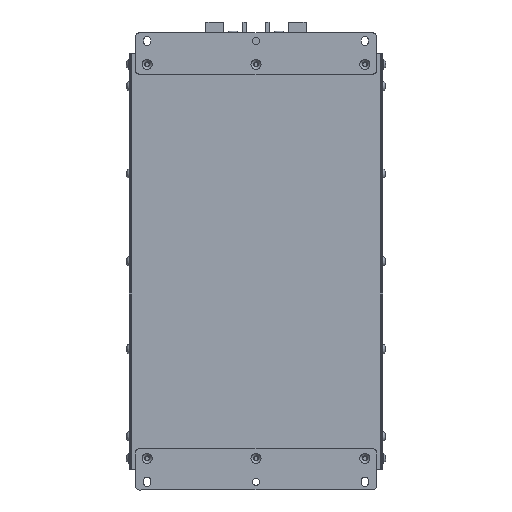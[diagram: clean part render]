
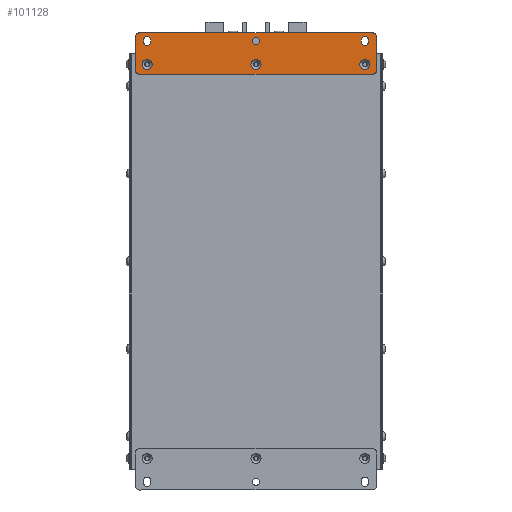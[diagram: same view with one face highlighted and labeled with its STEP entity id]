
A CAD part, front view. The second image highlights one B-rep face of the part: STEP entity #101128.
In plain terms, the highlighted planar face has unit normal (0, -1, 0).
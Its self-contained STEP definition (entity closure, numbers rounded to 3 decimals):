
#11387=FACE_BOUND('',#20263,.T.);
#11388=FACE_BOUND('',#20264,.T.);
#11389=FACE_BOUND('',#20265,.T.);
#11390=FACE_BOUND('',#20266,.T.);
#11391=FACE_BOUND('',#20267,.T.);
#11392=FACE_BOUND('',#20268,.T.);
#12042=PLANE('',#106934);
#14770=FACE_OUTER_BOUND('',#20262,.T.);
#20262=EDGE_LOOP('',(#71159,#71160,#71161,#71162,#71163,#71164,#71165,#71166));
#20263=EDGE_LOOP('',(#71167));
#20264=EDGE_LOOP('',(#71168,#71169,#71170,#71171));
#20265=EDGE_LOOP('',(#71172,#71173,#71174,#71175));
#20266=EDGE_LOOP('',(#71176));
#20267=EDGE_LOOP('',(#71177));
#20268=EDGE_LOOP('',(#71178));
#26409=LINE('',#136958,#34986);
#26410=LINE('',#136962,#34987);
#26411=LINE('',#136966,#34988);
#26412=LINE('',#136970,#34989);
#26413=LINE('',#136976,#34990);
#26414=LINE('',#136980,#34991);
#26415=LINE('',#136986,#34992);
#26416=LINE('',#136989,#34993);
#34986=VECTOR('',#114089,10.);
#34987=VECTOR('',#114092,10.);
#34988=VECTOR('',#114095,10.);
#34989=VECTOR('',#114098,10.);
#34990=VECTOR('',#114103,10.);
#34991=VECTOR('',#114106,10.);
#34992=VECTOR('',#114111,10.);
#34993=VECTOR('',#114114,10.);
#43562=CIRCLE('',#106932,4.6);
#43564=CIRCLE('',#106935,4.);
#43565=CIRCLE('',#106936,4.);
#43566=CIRCLE('',#106937,4.);
#43567=CIRCLE('',#106938,4.);
#43568=CIRCLE('',#106939,4.6);
#43569=CIRCLE('',#106940,3.3);
#43570=CIRCLE('',#106941,3.3);
#43571=CIRCLE('',#106942,3.3);
#43572=CIRCLE('',#106943,3.3);
#43573=CIRCLE('',#106944,3.3);
#43574=CIRCLE('',#106945,4.6);
#46307=VERTEX_POINT('',#136950);
#46309=VERTEX_POINT('',#136956);
#46310=VERTEX_POINT('',#136957);
#46311=VERTEX_POINT('',#136959);
#46312=VERTEX_POINT('',#136961);
#46313=VERTEX_POINT('',#136963);
#46314=VERTEX_POINT('',#136965);
#46315=VERTEX_POINT('',#136967);
#46316=VERTEX_POINT('',#136969);
#46317=VERTEX_POINT('',#136972);
#46318=VERTEX_POINT('',#136974);
#46319=VERTEX_POINT('',#136975);
#46320=VERTEX_POINT('',#136977);
#46321=VERTEX_POINT('',#136979);
#46322=VERTEX_POINT('',#136982);
#46323=VERTEX_POINT('',#136983);
#46324=VERTEX_POINT('',#136985);
#46325=VERTEX_POINT('',#136987);
#46326=VERTEX_POINT('',#136990);
#46327=VERTEX_POINT('',#136992);
#56182=EDGE_CURVE('',#46307,#46307,#43562,.T.);
#56185=EDGE_CURVE('',#46309,#46310,#26409,.T.);
#56186=EDGE_CURVE('',#46311,#46309,#43564,.T.);
#56187=EDGE_CURVE('',#46312,#46311,#26410,.T.);
#56188=EDGE_CURVE('',#46313,#46312,#43565,.T.);
#56189=EDGE_CURVE('',#46314,#46313,#26411,.T.);
#56190=EDGE_CURVE('',#46315,#46314,#43566,.T.);
#56191=EDGE_CURVE('',#46316,#46315,#26412,.T.);
#56192=EDGE_CURVE('',#46310,#46316,#43567,.T.);
#56193=EDGE_CURVE('',#46317,#46317,#43568,.T.);
#56194=EDGE_CURVE('',#46318,#46319,#26413,.T.);
#56195=EDGE_CURVE('',#46319,#46320,#43569,.T.);
#56196=EDGE_CURVE('',#46320,#46321,#26414,.T.);
#56197=EDGE_CURVE('',#46321,#46318,#43570,.T.);
#56198=EDGE_CURVE('',#46322,#46323,#43571,.T.);
#56199=EDGE_CURVE('',#46323,#46324,#26415,.T.);
#56200=EDGE_CURVE('',#46324,#46325,#43572,.T.);
#56201=EDGE_CURVE('',#46325,#46322,#26416,.T.);
#56202=EDGE_CURVE('',#46326,#46326,#43573,.T.);
#56203=EDGE_CURVE('',#46327,#46327,#43574,.T.);
#71159=ORIENTED_EDGE('',*,*,#56185,.F.);
#71160=ORIENTED_EDGE('',*,*,#56186,.F.);
#71161=ORIENTED_EDGE('',*,*,#56187,.F.);
#71162=ORIENTED_EDGE('',*,*,#56188,.F.);
#71163=ORIENTED_EDGE('',*,*,#56189,.F.);
#71164=ORIENTED_EDGE('',*,*,#56190,.F.);
#71165=ORIENTED_EDGE('',*,*,#56191,.F.);
#71166=ORIENTED_EDGE('',*,*,#56192,.F.);
#71167=ORIENTED_EDGE('',*,*,#56193,.F.);
#71168=ORIENTED_EDGE('',*,*,#56194,.T.);
#71169=ORIENTED_EDGE('',*,*,#56195,.T.);
#71170=ORIENTED_EDGE('',*,*,#56196,.T.);
#71171=ORIENTED_EDGE('',*,*,#56197,.T.);
#71172=ORIENTED_EDGE('',*,*,#56198,.T.);
#71173=ORIENTED_EDGE('',*,*,#56199,.T.);
#71174=ORIENTED_EDGE('',*,*,#56200,.T.);
#71175=ORIENTED_EDGE('',*,*,#56201,.T.);
#71176=ORIENTED_EDGE('',*,*,#56202,.T.);
#71177=ORIENTED_EDGE('',*,*,#56203,.F.);
#71178=ORIENTED_EDGE('',*,*,#56182,.F.);
#101128=ADVANCED_FACE('',(#14770,#11387,#11388,#11389,#11390,#11391,#11392),
#12042,.F.);
#106932=AXIS2_PLACEMENT_3D('',#136951,#114082,#114083);
#106934=AXIS2_PLACEMENT_3D('',#136955,#114087,#114088);
#106935=AXIS2_PLACEMENT_3D('',#136960,#114090,#114091);
#106936=AXIS2_PLACEMENT_3D('',#136964,#114093,#114094);
#106937=AXIS2_PLACEMENT_3D('',#136968,#114096,#114097);
#106938=AXIS2_PLACEMENT_3D('',#136971,#114099,#114100);
#106939=AXIS2_PLACEMENT_3D('',#136973,#114101,#114102);
#106940=AXIS2_PLACEMENT_3D('',#136978,#114104,#114105);
#106941=AXIS2_PLACEMENT_3D('',#136981,#114107,#114108);
#106942=AXIS2_PLACEMENT_3D('',#136984,#114109,#114110);
#106943=AXIS2_PLACEMENT_3D('',#136988,#114112,#114113);
#106944=AXIS2_PLACEMENT_3D('',#136991,#114115,#114116);
#106945=AXIS2_PLACEMENT_3D('',#136993,#114117,#114118);
#114082=DIRECTION('center_axis',(0.,-1.,0.));
#114083=DIRECTION('ref_axis',(1.,0.,0.));
#114087=DIRECTION('center_axis',(0.,1.,0.));
#114088=DIRECTION('ref_axis',(0.,0.,1.));
#114089=DIRECTION('',(0.,0.,-1.));
#114090=DIRECTION('center_axis',(0.,1.,0.));
#114091=DIRECTION('ref_axis',(0.,0.,1.));
#114092=DIRECTION('',(1.,0.,0.));
#114093=DIRECTION('center_axis',(0.,1.,0.));
#114094=DIRECTION('ref_axis',(-1.,0.,0.));
#114095=DIRECTION('',(0.,0.,1.));
#114096=DIRECTION('center_axis',(0.,1.,0.));
#114097=DIRECTION('ref_axis',(0.,0.,-1.));
#114098=DIRECTION('',(-1.,0.,0.));
#114099=DIRECTION('center_axis',(0.,1.,0.));
#114100=DIRECTION('ref_axis',(1.,0.,0.));
#114101=DIRECTION('center_axis',(0.,-1.,0.));
#114102=DIRECTION('ref_axis',(1.,0.,0.));
#114103=DIRECTION('',(-1.,0.,0.));
#114104=DIRECTION('center_axis',(0.,1.,0.));
#114105=DIRECTION('ref_axis',(0.,0.,1.));
#114106=DIRECTION('',(1.,0.,0.));
#114107=DIRECTION('center_axis',(0.,1.,0.));
#114108=DIRECTION('ref_axis',(0.,0.,-1.));
#114109=DIRECTION('center_axis',(0.,1.,0.));
#114110=DIRECTION('ref_axis',(0.,0.,-1.));
#114111=DIRECTION('',(-1.,0.,0.));
#114112=DIRECTION('center_axis',(0.,1.,0.));
#114113=DIRECTION('ref_axis',(0.,0.,1.));
#114114=DIRECTION('',(1.,0.,0.));
#114115=DIRECTION('center_axis',(0.,1.,0.));
#114116=DIRECTION('ref_axis',(1.,0.,0.));
#114117=DIRECTION('center_axis',(0.,-1.,0.));
#114118=DIRECTION('ref_axis',(1.,0.,0.));
#136950=CARTESIAN_POINT('',(-109.798,0.,79.596));
#136951=CARTESIAN_POINT('Origin',(-105.198,0.,79.596));
#136955=CARTESIAN_POINT('Origin',(-95.198,0.,179.596));
#136956=CARTESIAN_POINT('',(-76.198,0.,286.596));
#136957=CARTESIAN_POINT('',(-76.198,0.,72.596));
#136958=CARTESIAN_POINT('',(-76.198,0.,286.596));
#136959=CARTESIAN_POINT('',(-80.198,0.,290.596));
#136960=CARTESIAN_POINT('Origin',(-80.198,0.,286.596));
#136961=CARTESIAN_POINT('',(-110.198,0.,290.596));
#136962=CARTESIAN_POINT('',(-110.198,0.,290.596));
#136963=CARTESIAN_POINT('',(-114.198,0.,286.596));
#136964=CARTESIAN_POINT('Origin',(-110.198,0.,286.596));
#136965=CARTESIAN_POINT('',(-114.198,0.,72.596));
#136966=CARTESIAN_POINT('',(-114.198,0.,72.596));
#136967=CARTESIAN_POINT('',(-110.198,0.,68.596));
#136968=CARTESIAN_POINT('Origin',(-110.198,0.,72.596));
#136969=CARTESIAN_POINT('',(-80.198,0.,68.596));
#136970=CARTESIAN_POINT('',(-80.198,0.,68.596));
#136971=CARTESIAN_POINT('Origin',(-80.198,0.,72.596));
#136972=CARTESIAN_POINT('',(-109.798,0.,179.596));
#136973=CARTESIAN_POINT('Origin',(-105.198,0.,179.596));
#136974=CARTESIAN_POINT('',(-82.698,0.,76.296));
#136975=CARTESIAN_POINT('',(-84.698,0.,76.296));
#136976=CARTESIAN_POINT('',(-88.948,0.,76.296));
#136977=CARTESIAN_POINT('',(-84.698,0.,82.896));
#136978=CARTESIAN_POINT('Origin',(-84.698,0.,79.596));
#136979=CARTESIAN_POINT('',(-82.698,0.,82.896));
#136980=CARTESIAN_POINT('',(-89.948,0.,82.896));
#136981=CARTESIAN_POINT('Origin',(-82.698,0.,79.596));
#136982=CARTESIAN_POINT('',(-82.698,0.,282.896));
#136983=CARTESIAN_POINT('',(-82.698,0.,276.296));
#136984=CARTESIAN_POINT('Origin',(-82.698,0.,279.596));
#136985=CARTESIAN_POINT('',(-84.698,0.,276.296));
#136986=CARTESIAN_POINT('',(-88.948,0.,276.296));
#136987=CARTESIAN_POINT('',(-84.698,0.,282.896));
#136988=CARTESIAN_POINT('Origin',(-84.698,0.,279.596));
#136989=CARTESIAN_POINT('',(-89.948,0.,282.896));
#136990=CARTESIAN_POINT('',(-86.998,0.,179.596));
#136991=CARTESIAN_POINT('Origin',(-83.698,0.,179.596));
#136992=CARTESIAN_POINT('',(-109.798,0.,279.596));
#136993=CARTESIAN_POINT('Origin',(-105.198,0.,279.596));
